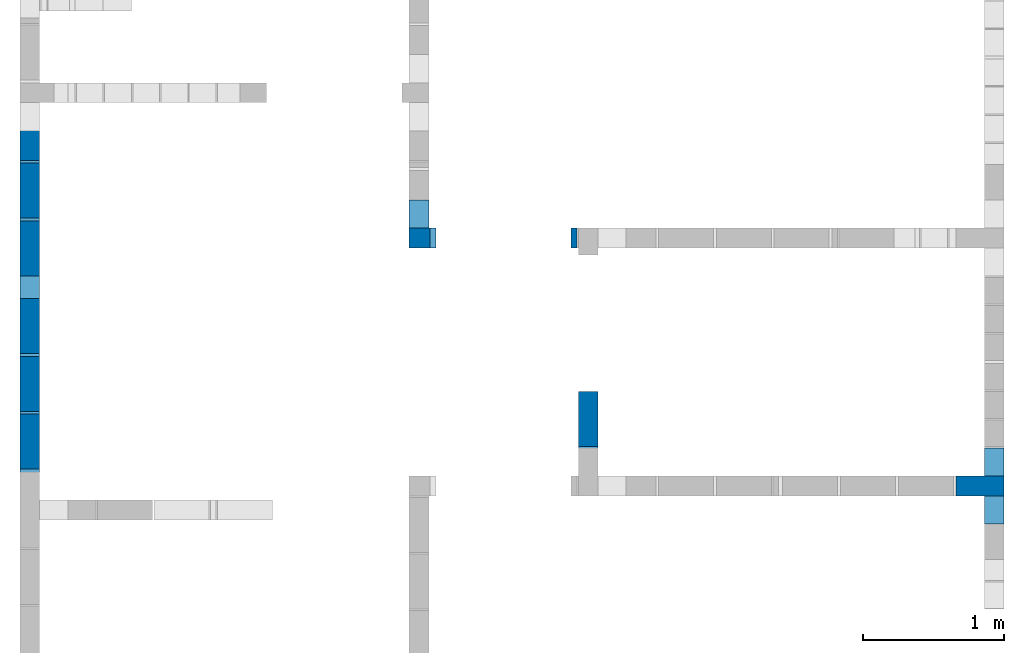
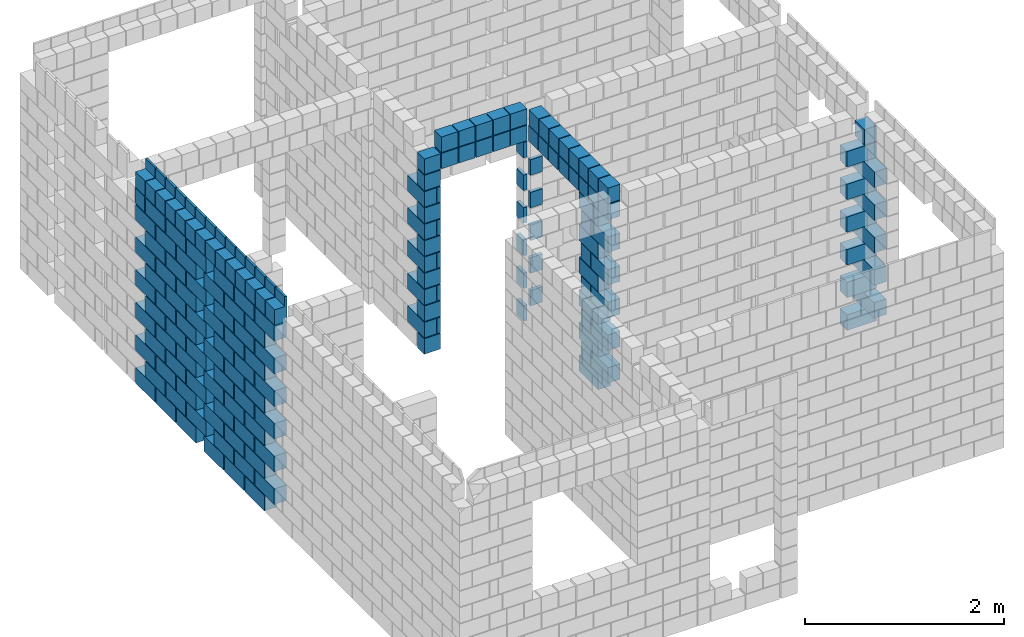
# One storey, part 7 of 12: 5 walls.
"""IFC4 building model written with IfcOpenShell, lengths in centimetres."""

from ifc_helpers import new_model, si_unit, derived_unit, frame, origin, origin_with_axes, origin_2d_with_axis, place, context, project, spatial, rectangle, extrude, element, save


model = new_model("IFC4")

# Units and contexts
model_context = context("Model", 3, precision=1e-05, world=origin_with_axes(), identifier="Body")
ifc_project = project(units=[si_unit("LENGTHUNIT", "METRE", prefix="CENTI"), si_unit("VOLUMEUNIT", "CUBIC_METRE"), si_unit("AREAUNIT", "SQUARE_METRE"), si_unit("POWERUNIT", "WATT"), si_unit("LUMINOUSFLUXUNIT", "LUMEN"), si_unit("ELECTRICCURRENTUNIT", "AMPERE"), si_unit("PRESSUREUNIT", "PASCAL", prefix="KILO"), si_unit("MASSUNIT", "GRAM", prefix="KILO"), si_unit("PLANEANGLEUNIT", "RADIAN"), derived_unit("VOLUMETRICFLOWRATEUNIT", [(si_unit("LENGTHUNIT", "METRE"), 3), (si_unit("TIMEUNIT", "SECOND"), -1)])], contexts=[model_context])

# Site, building, storey
site_placement = place(None, origin_with_axes())
site = spatial("IfcSite", under=ifc_project, at=site_placement)
building_placement = place(site_placement, origin())
building = spatial("IfcBuilding", under=site, at=building_placement)
storey_placement = place(building_placement, origin_with_axes())
storey = spatial("IfcBuildingStorey", under=building, at=storey_placement, Name="PISO", CompositionType="ELEMENT", Elevation=0.0)

# Walls
wall_1_placement = place(storey_placement, frame((286.5, 567.01, 239.0), z_axis=(0.0, 0.0, 1.0), x_axis=(1.0, 0.0, 0.0)))
element("IfcWall", 1, at=wall_1_placement, inside=storey, context=model_context, shape_type="SolidModel", body=[
    extrude(rectangle(XDim=19.0, YDim=14.0, at=origin_2d_with_axis()), frame((0.0, -10.0, -239.0), z_axis=(0.0, 0.0, 1.0), x_axis=(1.0, 0.0, 0.0)), (0.0, 0.0, 1.0), 19.0),
    extrude(rectangle(XDim=34.0, YDim=14.0, at=origin_2d_with_axis()), frame((-2.5, 0.0, -219.0), z_axis=(0.0, 0.0, 1.0), x_axis=(0.0, 1.0, 0.0)), (0.0, 0.0, 1.0), 19.0),
    extrude(rectangle(XDim=19.0, YDim=14.0, at=origin_2d_with_axis()), frame((0.0, -10.0, -199.0), z_axis=(0.0, 0.0, 1.0), x_axis=(1.0, 0.0, 0.0)), (0.0, 0.0, 1.0), 19.0),
    extrude(rectangle(XDim=34.0, YDim=14.0, at=origin_2d_with_axis()), frame((-2.5, 0.0, -179.0), z_axis=(0.0, 0.0, 1.0), x_axis=(0.0, 1.0, 0.0)), (0.0, 0.0, 1.0), 19.0),
    extrude(rectangle(XDim=19.0, YDim=14.0, at=origin_2d_with_axis()), frame((0.0, -10.0, -159.0), z_axis=(0.0, 0.0, 1.0), x_axis=(1.0, 0.0, 0.0)), (0.0, 0.0, 1.0), 19.0),
    extrude(rectangle(XDim=34.0, YDim=14.0, at=origin_2d_with_axis()), frame((-2.5, 0.0, -139.0), z_axis=(0.0, 0.0, 1.0), x_axis=(0.0, 1.0, 0.0)), (0.0, 0.0, 1.0), 19.0),
    extrude(rectangle(XDim=19.0, YDim=14.0, at=origin_2d_with_axis()), frame((0.0, -10.0, -119.0), z_axis=(0.0, 0.0, 1.0), x_axis=(1.0, 0.0, 0.0)), (0.0, 0.0, 1.0), 19.0),
    extrude(rectangle(XDim=34.0, YDim=14.0, at=origin_2d_with_axis()), frame((-2.5, 0.0, -99.0), z_axis=(0.0, 0.0, 1.0), x_axis=(0.0, 1.0, 0.0)), (0.0, 0.0, 1.0), 19.0),
    extrude(rectangle(XDim=19.0, YDim=14.0, at=origin_2d_with_axis()), frame((0.0, -10.0, -79.0), z_axis=(0.0, 0.0, 1.0), x_axis=(1.0, 0.0, 0.0)), (0.0, 0.0, 1.0), 19.0),
    extrude(rectangle(XDim=34.0, YDim=14.0, at=origin_2d_with_axis()), frame((-2.5, 0.0, -59.0), z_axis=(0.0, 0.0, 1.0), x_axis=(0.0, 1.0, 0.0)), (0.0, 0.0, 1.0), 19.0),
    extrude(rectangle(XDim=19.0, YDim=14.0, at=origin_2d_with_axis()), frame((0.0, -10.0, -39.0), z_axis=(0.0, 0.0, 1.0), x_axis=(1.0, 0.0, 0.0)), (0.0, 0.0, 1.0), 19.0),
    extrude(rectangle(XDim=19.0, YDim=14.0, at=origin_2d_with_axis()), frame((0.0, -10.0, -19.0), z_axis=(0.0, 0.0, 1.0), x_axis=(1.0, 0.0, 0.0)), (0.0, 0.0, 1.0), 19.0),
])
wall_2_placement = place(storey_placement, frame((682.01, 381.01, 239.0), z_axis=(0.0, 0.0, 1.0), x_axis=(1.0, 0.0, 0.0)))
element("IfcWall", 2, at=wall_2_placement, inside=storey, context=model_context, shape_type="SolidModel", body=[
    extrude(rectangle(XDim=34.0, YDim=14.0, at=origin_2d_with_axis()), frame((0.0, 0.0, -239.0), z_axis=(0.0, 0.0, 1.0), x_axis=(-1.0, 0.0, 0.0)), (0.0, 0.0, 1.0), 19.0),
    extrude(rectangle(XDim=54.0, YDim=14.0, at=origin_2d_with_axis()), frame((10.0, 0.0, -219.0), z_axis=(0.0, 0.0, 1.0), x_axis=(0.0, -1.0, 0.0)), (0.0, 0.0, 1.0), 19.0),
    extrude(rectangle(XDim=34.0, YDim=14.0, at=origin_2d_with_axis()), frame((0.0, 0.0, -199.0), z_axis=(0.0, 0.0, 1.0), x_axis=(-1.0, 0.0, 0.0)), (0.0, 0.0, 1.0), 19.0),
    extrude(rectangle(XDim=54.0, YDim=14.0, at=origin_2d_with_axis()), frame((10.0, 0.0, -179.0), z_axis=(0.0, 0.0, 1.0), x_axis=(0.0, -1.0, 0.0)), (0.0, 0.0, 1.0), 19.0),
    extrude(rectangle(XDim=34.0, YDim=14.0, at=origin_2d_with_axis()), frame((0.0, 0.0, -159.0), z_axis=(0.0, 0.0, 1.0), x_axis=(-1.0, 0.0, 0.0)), (0.0, 0.0, 1.0), 19.0),
    extrude(rectangle(XDim=54.0, YDim=14.0, at=origin_2d_with_axis()), frame((10.0, 0.0, -139.0), z_axis=(0.0, 0.0, 1.0), x_axis=(0.0, -1.0, 0.0)), (0.0, 0.0, 1.0), 19.0),
    extrude(rectangle(XDim=34.0, YDim=14.0, at=origin_2d_with_axis()), frame((0.0, 0.0, -119.0), z_axis=(0.0, 0.0, 1.0), x_axis=(-1.0, 0.0, 0.0)), (0.0, 0.0, 1.0), 19.0),
    extrude(rectangle(XDim=54.0, YDim=14.0, at=origin_2d_with_axis()), frame((10.0, 0.0, -99.0), z_axis=(0.0, 0.0, 1.0), x_axis=(0.0, -1.0, 0.0)), (0.0, 0.0, 1.0), 19.0),
    extrude(rectangle(XDim=34.0, YDim=14.0, at=origin_2d_with_axis()), frame((0.0, 0.0, -79.0), z_axis=(0.0, 0.0, 1.0), x_axis=(-1.0, 0.0, 0.0)), (0.0, 0.0, 1.0), 19.0),
    extrude(rectangle(XDim=54.0, YDim=14.0, at=origin_2d_with_axis()), frame((10.0, 0.0, -59.0), z_axis=(0.0, 0.0, 1.0), x_axis=(0.0, -1.0, 0.0)), (0.0, 0.0, 1.0), 19.0),
    extrude(rectangle(XDim=34.0, YDim=14.0, at=origin_2d_with_axis()), frame((0.0, 0.0, -39.0), z_axis=(0.0, 0.0, 1.0), x_axis=(-1.0, 0.0, 0.0)), (0.0, 0.0, 1.0), 19.0),
    extrude(rectangle(XDim=19.0, YDim=14.0, at=origin_2d_with_axis()), frame((10.0, 2.5, -19.0), z_axis=(0.0, 0.0, 1.0), x_axis=(0.0, 1.0, 0.0)), (0.0, 0.0, 1.0), 19.0),
])
wall_3_placement = place(storey_placement, frame((8.0, 512.01, 271.0), z_axis=(0.0, 0.0, 1.0), x_axis=(1.0, 0.0, 0.0)))
element("IfcWall", 3, at=wall_3_placement, inside=storey, Name="PAR-PISO-11", context=model_context, shape_type="SolidModel", body=[
    extrude(rectangle(XDim=39.0, YDim=14.0, at=origin_2d_with_axis()), frame((0.0, -99.5, -271.0), z_axis=(0.0, 0.0, 1.0), x_axis=(0.0, 1.0, 0.0)), (0.0, 0.0, 1.0), 19.0),
    extrude(rectangle(XDim=39.0, YDim=14.0, at=origin_2d_with_axis()), frame((0.0, -58.5, -271.0), z_axis=(0.0, 0.0, 1.0), x_axis=(0.0, 1.0, 0.0)), (0.0, 0.0, 1.0), 19.0),
    extrude(rectangle(XDim=39.0, YDim=14.0, at=origin_2d_with_axis()), frame((0.0, -17.5, -271.0), z_axis=(0.0, 0.0, 1.0), x_axis=(0.0, 1.0, 0.0)), (0.0, 0.0, 1.0), 19.0),
    extrude(rectangle(XDim=39.0, YDim=14.0, at=origin_2d_with_axis()), frame((0.0, 37.5, -271.0), z_axis=(0.0, 0.0, 1.0), x_axis=(0.0, 1.0, 0.0)), (0.0, 0.0, 1.0), 19.0),
    extrude(rectangle(XDim=39.0, YDim=14.0, at=origin_2d_with_axis()), frame((0.0, 78.5, -271.0), z_axis=(0.0, 0.0, 1.0), x_axis=(0.0, 1.0, 0.0)), (0.0, 0.0, 1.0), 19.0),
    extrude(rectangle(XDim=39.0, YDim=14.0, at=origin_2d_with_axis()), frame((0.0, 119.5, -271.0), z_axis=(0.0, 0.0, 1.0), x_axis=(0.0, 1.0, 0.0)), (0.0, 0.0, 1.0), 19.0),
    extrude(rectangle(XDim=39.0, YDim=14.0, at=origin_2d_with_axis()), frame((0.0, -119.5, -251.0), z_axis=(0.0, 0.0, 1.0), x_axis=(0.0, 1.0, 0.0)), (0.0, 0.0, 1.0), 19.0),
    extrude(rectangle(XDim=39.0, YDim=14.0, at=origin_2d_with_axis()), frame((0.0, -78.5, -251.0), z_axis=(0.0, 0.0, 1.0), x_axis=(0.0, 1.0, 0.0)), (0.0, 0.0, 1.0), 19.0),
    extrude(rectangle(XDim=39.0, YDim=14.0, at=origin_2d_with_axis()), frame((0.0, -37.5, -251.0), z_axis=(0.0, 0.0, 1.0), x_axis=(0.0, 1.0, 0.0)), (0.0, 0.0, 1.0), 19.0),
    extrude(rectangle(XDim=39.0, YDim=14.0, at=origin_2d_with_axis()), frame((0.0, 17.5, -251.0), z_axis=(0.0, 0.0, 1.0), x_axis=(0.0, 1.0, 0.0)), (0.0, 0.0, 1.0), 19.0),
    extrude(rectangle(XDim=39.0, YDim=14.0, at=origin_2d_with_axis()), frame((0.0, 58.5, -251.0), z_axis=(0.0, 0.0, 1.0), x_axis=(0.0, 1.0, 0.0)), (0.0, 0.0, 1.0), 19.0),
    extrude(rectangle(XDim=39.0, YDim=14.0, at=origin_2d_with_axis()), frame((0.0, 99.5, -251.0), z_axis=(0.0, 0.0, 1.0), x_axis=(0.0, 1.0, 0.0)), (0.0, 0.0, 1.0), 19.0),
    extrude(rectangle(XDim=39.0, YDim=14.0, at=origin_2d_with_axis()), frame((0.0, -99.5, -231.0), z_axis=(0.0, 0.0, 1.0), x_axis=(0.0, 1.0, 0.0)), (0.0, 0.0, 1.0), 19.0),
    extrude(rectangle(XDim=39.0, YDim=14.0, at=origin_2d_with_axis()), frame((0.0, -58.5, -231.0), z_axis=(0.0, 0.0, 1.0), x_axis=(0.0, 1.0, 0.0)), (0.0, 0.0, 1.0), 19.0),
    extrude(rectangle(XDim=39.0, YDim=14.0, at=origin_2d_with_axis()), frame((0.0, -17.5, -231.0), z_axis=(0.0, 0.0, 1.0), x_axis=(0.0, 1.0, 0.0)), (0.0, 0.0, 1.0), 19.0),
    extrude(rectangle(XDim=39.0, YDim=14.0, at=origin_2d_with_axis()), frame((0.0, 37.5, -231.0), z_axis=(0.0, 0.0, 1.0), x_axis=(0.0, 1.0, 0.0)), (0.0, 0.0, 1.0), 19.0),
    extrude(rectangle(XDim=39.0, YDim=14.0, at=origin_2d_with_axis()), frame((0.0, 78.5, -231.0), z_axis=(0.0, 0.0, 1.0), x_axis=(0.0, 1.0, 0.0)), (0.0, 0.0, 1.0), 19.0),
    extrude(rectangle(XDim=39.0, YDim=14.0, at=origin_2d_with_axis()), frame((0.0, 119.5, -231.0), z_axis=(0.0, 0.0, 1.0), x_axis=(0.0, 1.0, 0.0)), (0.0, 0.0, 1.0), 19.0),
    extrude(rectangle(XDim=39.0, YDim=14.0, at=origin_2d_with_axis()), frame((0.0, -119.5, -211.0), z_axis=(0.0, 0.0, 1.0), x_axis=(0.0, 1.0, 0.0)), (0.0, 0.0, 1.0), 19.0),
    extrude(rectangle(XDim=39.0, YDim=14.0, at=origin_2d_with_axis()), frame((0.0, -78.5, -211.0), z_axis=(0.0, 0.0, 1.0), x_axis=(0.0, 1.0, 0.0)), (0.0, 0.0, 1.0), 19.0),
    extrude(rectangle(XDim=39.0, YDim=14.0, at=origin_2d_with_axis()), frame((0.0, -37.5, -211.0), z_axis=(0.0, 0.0, 1.0), x_axis=(0.0, 1.0, 0.0)), (0.0, 0.0, 1.0), 19.0),
    extrude(rectangle(XDim=39.0, YDim=14.0, at=origin_2d_with_axis()), frame((0.0, 17.5, -211.0), z_axis=(0.0, 0.0, 1.0), x_axis=(0.0, 1.0, 0.0)), (0.0, 0.0, 1.0), 19.0),
    extrude(rectangle(XDim=39.0, YDim=14.0, at=origin_2d_with_axis()), frame((0.0, 58.5, -211.0), z_axis=(0.0, 0.0, 1.0), x_axis=(0.0, 1.0, 0.0)), (0.0, 0.0, 1.0), 19.0),
    extrude(rectangle(XDim=39.0, YDim=14.0, at=origin_2d_with_axis()), frame((0.0, 99.5, -211.0), z_axis=(0.0, 0.0, 1.0), x_axis=(0.0, 1.0, 0.0)), (0.0, 0.0, 1.0), 19.0),
    extrude(rectangle(XDim=39.0, YDim=14.0, at=origin_2d_with_axis()), frame((0.0, -99.5, -191.0), z_axis=(0.0, 0.0, 1.0), x_axis=(0.0, 1.0, 0.0)), (0.0, 0.0, 1.0), 19.0),
    extrude(rectangle(XDim=39.0, YDim=14.0, at=origin_2d_with_axis()), frame((0.0, -58.5, -191.0), z_axis=(0.0, 0.0, 1.0), x_axis=(0.0, 1.0, 0.0)), (0.0, 0.0, 1.0), 19.0),
    extrude(rectangle(XDim=39.0, YDim=14.0, at=origin_2d_with_axis()), frame((0.0, -17.5, -191.0), z_axis=(0.0, 0.0, 1.0), x_axis=(0.0, 1.0, 0.0)), (0.0, 0.0, 1.0), 19.0),
    extrude(rectangle(XDim=39.0, YDim=14.0, at=origin_2d_with_axis()), frame((0.0, 37.5, -191.0), z_axis=(0.0, 0.0, 1.0), x_axis=(0.0, 1.0, 0.0)), (0.0, 0.0, 1.0), 19.0),
    extrude(rectangle(XDim=39.0, YDim=14.0, at=origin_2d_with_axis()), frame((0.0, 78.5, -191.0), z_axis=(0.0, 0.0, 1.0), x_axis=(0.0, 1.0, 0.0)), (0.0, 0.0, 1.0), 19.0),
    extrude(rectangle(XDim=39.0, YDim=14.0, at=origin_2d_with_axis()), frame((0.0, 119.5, -191.0), z_axis=(0.0, 0.0, 1.0), x_axis=(0.0, 1.0, 0.0)), (0.0, 0.0, 1.0), 19.0),
    extrude(rectangle(XDim=39.0, YDim=14.0, at=origin_2d_with_axis()), frame((0.0, -119.5, -171.0), z_axis=(0.0, 0.0, 1.0), x_axis=(0.0, 1.0, 0.0)), (0.0, 0.0, 1.0), 19.0),
    extrude(rectangle(XDim=39.0, YDim=14.0, at=origin_2d_with_axis()), frame((0.0, -78.5, -171.0), z_axis=(0.0, 0.0, 1.0), x_axis=(0.0, 1.0, 0.0)), (0.0, 0.0, 1.0), 19.0),
    extrude(rectangle(XDim=39.0, YDim=14.0, at=origin_2d_with_axis()), frame((0.0, -37.5, -171.0), z_axis=(0.0, 0.0, 1.0), x_axis=(0.0, 1.0, 0.0)), (0.0, 0.0, 1.0), 19.0),
    extrude(rectangle(XDim=39.0, YDim=14.0, at=origin_2d_with_axis()), frame((0.0, 17.5, -171.0), z_axis=(0.0, 0.0, 1.0), x_axis=(0.0, 1.0, 0.0)), (0.0, 0.0, 1.0), 19.0),
    extrude(rectangle(XDim=39.0, YDim=14.0, at=origin_2d_with_axis()), frame((0.0, 58.5, -171.0), z_axis=(0.0, 0.0, 1.0), x_axis=(0.0, 1.0, 0.0)), (0.0, 0.0, 1.0), 19.0),
    extrude(rectangle(XDim=39.0, YDim=14.0, at=origin_2d_with_axis()), frame((0.0, 99.5, -171.0), z_axis=(0.0, 0.0, 1.0), x_axis=(0.0, 1.0, 0.0)), (0.0, 0.0, 1.0), 19.0),
    extrude(rectangle(XDim=39.0, YDim=14.0, at=origin_2d_with_axis()), frame((0.0, -99.5, -151.0), z_axis=(0.0, 0.0, 1.0), x_axis=(0.0, 1.0, 0.0)), (0.0, 0.0, 1.0), 19.0),
    extrude(rectangle(XDim=39.0, YDim=14.0, at=origin_2d_with_axis()), frame((0.0, -58.5, -151.0), z_axis=(0.0, 0.0, 1.0), x_axis=(0.0, 1.0, 0.0)), (0.0, 0.0, 1.0), 19.0),
    extrude(rectangle(XDim=39.0, YDim=14.0, at=origin_2d_with_axis()), frame((0.0, -17.5, -151.0), z_axis=(0.0, 0.0, 1.0), x_axis=(0.0, 1.0, 0.0)), (0.0, 0.0, 1.0), 19.0),
    extrude(rectangle(XDim=39.0, YDim=14.0, at=origin_2d_with_axis()), frame((0.0, 37.5, -151.0), z_axis=(0.0, 0.0, 1.0), x_axis=(0.0, 1.0, 0.0)), (0.0, 0.0, 1.0), 19.0),
    extrude(rectangle(XDim=39.0, YDim=14.0, at=origin_2d_with_axis()), frame((0.0, 78.5, -151.0), z_axis=(0.0, 0.0, 1.0), x_axis=(0.0, 1.0, 0.0)), (0.0, 0.0, 1.0), 19.0),
    extrude(rectangle(XDim=39.0, YDim=14.0, at=origin_2d_with_axis()), frame((0.0, 119.5, -151.0), z_axis=(0.0, 0.0, 1.0), x_axis=(0.0, 1.0, 0.0)), (0.0, 0.0, 1.0), 19.0),
    extrude(rectangle(XDim=39.0, YDim=14.0, at=origin_2d_with_axis()), frame((0.0, -119.5, -131.0), z_axis=(0.0, 0.0, 1.0), x_axis=(0.0, 1.0, 0.0)), (0.0, 0.0, 1.0), 19.0),
    extrude(rectangle(XDim=39.0, YDim=14.0, at=origin_2d_with_axis()), frame((0.0, -78.5, -131.0), z_axis=(0.0, 0.0, 1.0), x_axis=(0.0, 1.0, 0.0)), (0.0, 0.0, 1.0), 19.0),
    extrude(rectangle(XDim=39.0, YDim=14.0, at=origin_2d_with_axis()), frame((0.0, -37.5, -131.0), z_axis=(0.0, 0.0, 1.0), x_axis=(0.0, 1.0, 0.0)), (0.0, 0.0, 1.0), 19.0),
    extrude(rectangle(XDim=39.0, YDim=14.0, at=origin_2d_with_axis()), frame((0.0, 17.5, -131.0), z_axis=(0.0, 0.0, 1.0), x_axis=(0.0, 1.0, 0.0)), (0.0, 0.0, 1.0), 19.0),
    extrude(rectangle(XDim=39.0, YDim=14.0, at=origin_2d_with_axis()), frame((0.0, 58.5, -131.0), z_axis=(0.0, 0.0, 1.0), x_axis=(0.0, 1.0, 0.0)), (0.0, 0.0, 1.0), 19.0),
    extrude(rectangle(XDim=39.0, YDim=14.0, at=origin_2d_with_axis()), frame((0.0, 99.5, -131.0), z_axis=(0.0, 0.0, 1.0), x_axis=(0.0, 1.0, 0.0)), (0.0, 0.0, 1.0), 19.0),
    extrude(rectangle(XDim=39.0, YDim=14.0, at=origin_2d_with_axis()), frame((0.0, -99.5, -111.0), z_axis=(0.0, 0.0, 1.0), x_axis=(0.0, 1.0, 0.0)), (0.0, 0.0, 1.0), 19.0),
    extrude(rectangle(XDim=39.0, YDim=14.0, at=origin_2d_with_axis()), frame((0.0, -58.5, -111.0), z_axis=(0.0, 0.0, 1.0), x_axis=(0.0, 1.0, 0.0)), (0.0, 0.0, 1.0), 19.0),
    extrude(rectangle(XDim=39.0, YDim=14.0, at=origin_2d_with_axis()), frame((0.0, -17.5, -111.0), z_axis=(0.0, 0.0, 1.0), x_axis=(0.0, 1.0, 0.0)), (0.0, 0.0, 1.0), 19.0),
    extrude(rectangle(XDim=39.0, YDim=14.0, at=origin_2d_with_axis()), frame((0.0, 37.5, -111.0), z_axis=(0.0, 0.0, 1.0), x_axis=(0.0, 1.0, 0.0)), (0.0, 0.0, 1.0), 19.0),
    extrude(rectangle(XDim=39.0, YDim=14.0, at=origin_2d_with_axis()), frame((0.0, 78.5, -111.0), z_axis=(0.0, 0.0, 1.0), x_axis=(0.0, 1.0, 0.0)), (0.0, 0.0, 1.0), 19.0),
    extrude(rectangle(XDim=39.0, YDim=14.0, at=origin_2d_with_axis()), frame((0.0, 119.5, -111.0), z_axis=(0.0, 0.0, 1.0), x_axis=(0.0, 1.0, 0.0)), (0.0, 0.0, 1.0), 19.0),
    extrude(rectangle(XDim=39.0, YDim=14.0, at=origin_2d_with_axis()), frame((0.0, -119.5, -91.0), z_axis=(0.0, 0.0, 1.0), x_axis=(0.0, 1.0, 0.0)), (0.0, 0.0, 1.0), 19.0),
    extrude(rectangle(XDim=39.0, YDim=14.0, at=origin_2d_with_axis()), frame((0.0, -78.5, -91.0), z_axis=(0.0, 0.0, 1.0), x_axis=(0.0, 1.0, 0.0)), (0.0, 0.0, 1.0), 19.0),
    extrude(rectangle(XDim=39.0, YDim=14.0, at=origin_2d_with_axis()), frame((0.0, -37.5, -91.0), z_axis=(0.0, 0.0, 1.0), x_axis=(0.0, 1.0, 0.0)), (0.0, 0.0, 1.0), 19.0),
    extrude(rectangle(XDim=39.0, YDim=14.0, at=origin_2d_with_axis()), frame((0.0, 17.5, -91.0), z_axis=(0.0, 0.0, 1.0), x_axis=(0.0, 1.0, 0.0)), (0.0, 0.0, 1.0), 19.0),
    extrude(rectangle(XDim=39.0, YDim=14.0, at=origin_2d_with_axis()), frame((0.0, 58.5, -91.0), z_axis=(0.0, 0.0, 1.0), x_axis=(0.0, 1.0, 0.0)), (0.0, 0.0, 1.0), 19.0),
    extrude(rectangle(XDim=39.0, YDim=14.0, at=origin_2d_with_axis()), frame((0.0, 99.5, -91.0), z_axis=(0.0, 0.0, 1.0), x_axis=(0.0, 1.0, 0.0)), (0.0, 0.0, 1.0), 19.0),
    extrude(rectangle(XDim=39.0, YDim=14.0, at=origin_2d_with_axis()), frame((0.0, -99.5, -71.0), z_axis=(0.0, 0.0, 1.0), x_axis=(0.0, 1.0, 0.0)), (0.0, 0.0, 1.0), 19.0),
    extrude(rectangle(XDim=39.0, YDim=14.0, at=origin_2d_with_axis()), frame((0.0, -58.5, -71.0), z_axis=(0.0, 0.0, 1.0), x_axis=(0.0, 1.0, 0.0)), (0.0, 0.0, 1.0), 19.0),
    extrude(rectangle(XDim=39.0, YDim=14.0, at=origin_2d_with_axis()), frame((0.0, -17.5, -71.0), z_axis=(0.0, 0.0, 1.0), x_axis=(0.0, 1.0, 0.0)), (0.0, 0.0, 1.0), 19.0),
    extrude(rectangle(XDim=39.0, YDim=14.0, at=origin_2d_with_axis()), frame((0.0, 37.5, -71.0), z_axis=(0.0, 0.0, 1.0), x_axis=(0.0, 1.0, 0.0)), (0.0, 0.0, 1.0), 19.0),
    extrude(rectangle(XDim=39.0, YDim=14.0, at=origin_2d_with_axis()), frame((0.0, 78.5, -71.0), z_axis=(0.0, 0.0, 1.0), x_axis=(0.0, 1.0, 0.0)), (0.0, 0.0, 1.0), 19.0),
    extrude(rectangle(XDim=39.0, YDim=14.0, at=origin_2d_with_axis()), frame((0.0, 119.5, -71.0), z_axis=(0.0, 0.0, 1.0), x_axis=(0.0, 1.0, 0.0)), (0.0, 0.0, 1.0), 19.0),
    extrude(rectangle(XDim=39.0, YDim=14.0, at=origin_2d_with_axis()), frame((0.0, -119.5, -51.0), z_axis=(0.0, 0.0, 1.0), x_axis=(0.0, 1.0, 0.0)), (0.0, 0.0, 1.0), 19.0),
    extrude(rectangle(XDim=39.0, YDim=14.0, at=origin_2d_with_axis()), frame((0.0, -78.5, -51.0), z_axis=(0.0, 0.0, 1.0), x_axis=(0.0, 1.0, 0.0)), (0.0, 0.0, 1.0), 19.0),
    extrude(rectangle(XDim=39.0, YDim=14.0, at=origin_2d_with_axis()), frame((0.0, -37.5, -51.0), z_axis=(0.0, 0.0, 1.0), x_axis=(0.0, 1.0, 0.0)), (0.0, 0.0, 1.0), 19.0),
    extrude(rectangle(XDim=39.0, YDim=14.0, at=origin_2d_with_axis()), frame((0.0, 17.5, -51.0), z_axis=(0.0, 0.0, 1.0), x_axis=(0.0, 1.0, 0.0)), (0.0, 0.0, 1.0), 19.0),
    extrude(rectangle(XDim=39.0, YDim=14.0, at=origin_2d_with_axis()), frame((0.0, 58.5, -51.0), z_axis=(0.0, 0.0, 1.0), x_axis=(0.0, 1.0, 0.0)), (0.0, 0.0, 1.0), 19.0),
    extrude(rectangle(XDim=39.0, YDim=14.0, at=origin_2d_with_axis()), frame((0.0, 99.5, -51.0), z_axis=(0.0, 0.0, 1.0), x_axis=(0.0, 1.0, 0.0)), (0.0, 0.0, 1.0), 19.0),
    extrude(rectangle(XDim=19.0, YDim=14.0, at=origin_2d_with_axis()), frame((0.0, 130.5, -51.0), z_axis=(0.0, 0.0, 1.0), x_axis=(0.0, 1.0, 0.0)), (0.0, 0.0, 1.0), 19.0),
    extrude(rectangle(XDim=19.0, YDim=2.5, at=origin_2d_with_axis()), frame((5.75, -130.5, -12.0), z_axis=(0.0, 0.0, 1.0), x_axis=(0.0, 1.0, 0.0)), (0.0, 0.0, 1.0), 12.0),
    extrude(rectangle(XDim=19.0, YDim=14.0, at=origin_2d_with_axis()), frame((0.0, -130.5, -31.0), z_axis=(0.0, 0.0, 1.0), x_axis=(0.0, 1.0, 0.0)), (0.0, 0.0, 1.0), 19.0),
    extrude(rectangle(XDim=19.0, YDim=2.5, at=origin_2d_with_axis()), frame((5.75, -110.5, -12.0), z_axis=(0.0, 0.0, 1.0), x_axis=(0.0, 1.0, 0.0)), (0.0, 0.0, 1.0), 12.0),
    extrude(rectangle(XDim=19.0, YDim=14.0, at=origin_2d_with_axis()), frame((0.0, -110.5, -31.0), z_axis=(0.0, 0.0, 1.0), x_axis=(0.0, 1.0, 0.0)), (0.0, 0.0, 1.0), 19.0),
    extrude(rectangle(XDim=19.0, YDim=2.5, at=origin_2d_with_axis()), frame((5.75, -90.5, -12.0), z_axis=(0.0, 0.0, 1.0), x_axis=(0.0, 1.0, 0.0)), (0.0, 0.0, 1.0), 12.0),
    extrude(rectangle(XDim=19.0, YDim=14.0, at=origin_2d_with_axis()), frame((0.0, -90.5, -31.0), z_axis=(0.0, 0.0, 1.0), x_axis=(0.0, 1.0, 0.0)), (0.0, 0.0, 1.0), 19.0),
    extrude(rectangle(XDim=19.0, YDim=2.5, at=origin_2d_with_axis()), frame((5.75, -70.5, -12.0), z_axis=(0.0, 0.0, 1.0), x_axis=(0.0, 1.0, 0.0)), (0.0, 0.0, 1.0), 12.0),
    extrude(rectangle(XDim=19.0, YDim=14.0, at=origin_2d_with_axis()), frame((0.0, -70.5, -31.0), z_axis=(0.0, 0.0, 1.0), x_axis=(0.0, 1.0, 0.0)), (0.0, 0.0, 1.0), 19.0),
    extrude(rectangle(XDim=19.0, YDim=2.5, at=origin_2d_with_axis()), frame((5.75, -50.5, -12.0), z_axis=(0.0, 0.0, 1.0), x_axis=(0.0, 1.0, 0.0)), (0.0, 0.0, 1.0), 12.0),
    extrude(rectangle(XDim=19.0, YDim=14.0, at=origin_2d_with_axis()), frame((0.0, -50.5, -31.0), z_axis=(0.0, 0.0, 1.0), x_axis=(0.0, 1.0, 0.0)), (0.0, 0.0, 1.0), 19.0),
    extrude(rectangle(XDim=19.0, YDim=2.5, at=origin_2d_with_axis()), frame((5.75, -30.5, -12.0), z_axis=(0.0, 0.0, 1.0), x_axis=(0.0, 1.0, 0.0)), (0.0, 0.0, 1.0), 12.0),
    extrude(rectangle(XDim=19.0, YDim=14.0, at=origin_2d_with_axis()), frame((0.0, -30.5, -31.0), z_axis=(0.0, 0.0, 1.0), x_axis=(0.0, 1.0, 0.0)), (0.0, 0.0, 1.0), 19.0),
    extrude(rectangle(XDim=19.0, YDim=2.5, at=origin_2d_with_axis()), frame((5.75, -10.5, -12.0), z_axis=(0.0, 0.0, 1.0), x_axis=(0.0, 1.0, 0.0)), (0.0, 0.0, 1.0), 12.0),
    extrude(rectangle(XDim=19.0, YDim=14.0, at=origin_2d_with_axis()), frame((0.0, -10.5, -31.0), z_axis=(0.0, 0.0, 1.0), x_axis=(0.0, 1.0, 0.0)), (0.0, 0.0, 1.0), 19.0),
    extrude(rectangle(XDim=19.0, YDim=2.5, at=origin_2d_with_axis()), frame((5.75, 9.5, -12.0), z_axis=(0.0, 0.0, 1.0), x_axis=(0.0, 1.0, 0.0)), (0.0, 0.0, 1.0), 12.0),
    extrude(rectangle(XDim=19.0, YDim=14.0, at=origin_2d_with_axis()), frame((0.0, 9.5, -31.0), z_axis=(0.0, 0.0, 1.0), x_axis=(0.0, 1.0, 0.0)), (0.0, 0.0, 1.0), 19.0),
    extrude(rectangle(XDim=19.0, YDim=2.5, at=origin_2d_with_axis()), frame((5.75, 29.5, -12.0), z_axis=(0.0, 0.0, 1.0), x_axis=(0.0, 1.0, 0.0)), (0.0, 0.0, 1.0), 12.0),
    extrude(rectangle(XDim=19.0, YDim=14.0, at=origin_2d_with_axis()), frame((0.0, 29.5, -31.0), z_axis=(0.0, 0.0, 1.0), x_axis=(0.0, 1.0, 0.0)), (0.0, 0.0, 1.0), 19.0),
    extrude(rectangle(XDim=19.0, YDim=2.5, at=origin_2d_with_axis()), frame((5.75, 49.5, -12.0), z_axis=(0.0, 0.0, 1.0), x_axis=(0.0, 1.0, 0.0)), (0.0, 0.0, 1.0), 12.0),
    extrude(rectangle(XDim=19.0, YDim=14.0, at=origin_2d_with_axis()), frame((0.0, 49.5, -31.0), z_axis=(0.0, 0.0, 1.0), x_axis=(0.0, 1.0, 0.0)), (0.0, 0.0, 1.0), 19.0),
    extrude(rectangle(XDim=19.0, YDim=2.5, at=origin_2d_with_axis()), frame((5.75, 69.5, -12.0), z_axis=(0.0, 0.0, 1.0), x_axis=(0.0, 1.0, 0.0)), (0.0, 0.0, 1.0), 12.0),
    extrude(rectangle(XDim=19.0, YDim=14.0, at=origin_2d_with_axis()), frame((0.0, 69.5, -31.0), z_axis=(0.0, 0.0, 1.0), x_axis=(0.0, 1.0, 0.0)), (0.0, 0.0, 1.0), 19.0),
    extrude(rectangle(XDim=19.0, YDim=2.5, at=origin_2d_with_axis()), frame((5.75, 89.5, -12.0), z_axis=(0.0, 0.0, 1.0), x_axis=(0.0, 1.0, 0.0)), (0.0, 0.0, 1.0), 12.0),
    extrude(rectangle(XDim=19.0, YDim=14.0, at=origin_2d_with_axis()), frame((0.0, 89.5, -31.0), z_axis=(0.0, 0.0, 1.0), x_axis=(0.0, 1.0, 0.0)), (0.0, 0.0, 1.0), 19.0),
    extrude(rectangle(XDim=19.0, YDim=2.5, at=origin_2d_with_axis()), frame((5.75, 109.5, -12.0), z_axis=(0.0, 0.0, 1.0), x_axis=(0.0, 1.0, 0.0)), (0.0, 0.0, 1.0), 12.0),
    extrude(rectangle(XDim=19.0, YDim=14.0, at=origin_2d_with_axis()), frame((0.0, 109.5, -31.0), z_axis=(0.0, 0.0, 1.0), x_axis=(0.0, 1.0, 0.0)), (0.0, 0.0, 1.0), 19.0),
    extrude(rectangle(XDim=19.0, YDim=2.5, at=origin_2d_with_axis()), frame((5.75, 129.5, -12.0), z_axis=(0.0, 0.0, 1.0), x_axis=(0.0, 1.0, 0.0)), (0.0, 0.0, 1.0), 12.0),
    extrude(rectangle(XDim=19.0, YDim=14.0, at=origin_2d_with_axis()), frame((0.0, 129.5, -31.0), z_axis=(0.0, 0.0, 1.0), x_axis=(0.0, 1.0, 0.0)), (0.0, 0.0, 1.0), 19.0),
])
wall_4_placement = place(storey_placement, frame((404.01, 469.01, 259.0), z_axis=(0.0, 0.0, 1.0), x_axis=(1.0, 0.0, 0.0)))
element("IfcWall", 4, at=wall_4_placement, inside=storey, Name="PAR-PISO-14", context=model_context, shape_type="SolidModel", body=[
    extrude(rectangle(XDim=39.0, YDim=14.0, at=origin_2d_with_axis()), frame((0.0, -40.5, -259.0), z_axis=(0.0, 0.0, 1.0), x_axis=(0.0, 1.0, 0.0)), (0.0, 0.0, 1.0), 19.0),
    extrude(rectangle(XDim=4.0, YDim=14.0, at=origin_2d_with_axis()), frame((0.0, 78.0, -239.0), z_axis=(0.0, 0.0, 1.0), x_axis=(0.0, 1.0, 0.0)), (0.0, 0.0, 1.0), 19.0),
    extrude(rectangle(XDim=34.0, YDim=14.0, at=origin_2d_with_axis()), frame((0.0, -62.8, -239.0), z_axis=(0.0, 0.0, 1.0), x_axis=(0.0, 1.0, 0.0)), (0.0, 0.0, 1.0), 19.0),
    extrude(rectangle(XDim=19.0, YDim=14.0, at=origin_2d_with_axis()), frame((0.0, -35.3, -239.0), z_axis=(0.0, 0.0, 1.0), x_axis=(0.0, 1.0, 0.0)), (0.0, 0.0, 1.0), 19.0),
    extrude(rectangle(XDim=39.0, YDim=14.0, at=origin_2d_with_axis()), frame((0.0, -40.5, -219.0), z_axis=(0.0, 0.0, 1.0), x_axis=(0.0, 1.0, 0.0)), (0.0, 0.0, 1.0), 19.0),
    extrude(rectangle(XDim=4.0, YDim=14.0, at=origin_2d_with_axis()), frame((0.0, 78.0, -199.0), z_axis=(0.0, 0.0, 1.0), x_axis=(0.0, 1.0, 0.0)), (0.0, 0.0, 1.0), 19.0),
    extrude(rectangle(XDim=34.0, YDim=14.0, at=origin_2d_with_axis()), frame((0.0, -62.8, -199.0), z_axis=(0.0, 0.0, 1.0), x_axis=(0.0, 1.0, 0.0)), (0.0, 0.0, 1.0), 19.0),
    extrude(rectangle(XDim=19.0, YDim=14.0, at=origin_2d_with_axis()), frame((0.0, -35.3, -199.0), z_axis=(0.0, 0.0, 1.0), x_axis=(0.0, 1.0, 0.0)), (0.0, 0.0, 1.0), 19.0),
    extrude(rectangle(XDim=39.0, YDim=14.0, at=origin_2d_with_axis()), frame((0.0, -40.5, -179.0), z_axis=(0.0, 0.0, 1.0), x_axis=(0.0, 1.0, 0.0)), (0.0, 0.0, 1.0), 19.0),
    extrude(rectangle(XDim=4.0, YDim=14.0, at=origin_2d_with_axis()), frame((0.0, 78.0, -159.0), z_axis=(0.0, 0.0, 1.0), x_axis=(0.0, 1.0, 0.0)), (0.0, 0.0, 1.0), 19.0),
    extrude(rectangle(XDim=34.0, YDim=14.0, at=origin_2d_with_axis()), frame((0.0, -62.8, -159.0), z_axis=(0.0, 0.0, 1.0), x_axis=(0.0, 1.0, 0.0)), (0.0, 0.0, 1.0), 19.0),
    extrude(rectangle(XDim=19.0, YDim=14.0, at=origin_2d_with_axis()), frame((0.0, -35.3, -159.0), z_axis=(0.0, 0.0, 1.0), x_axis=(0.0, 1.0, 0.0)), (0.0, 0.0, 1.0), 19.0),
    extrude(rectangle(XDim=39.0, YDim=14.0, at=origin_2d_with_axis()), frame((0.0, -40.5, -139.0), z_axis=(0.0, 0.0, 1.0), x_axis=(0.0, 1.0, 0.0)), (0.0, 0.0, 1.0), 19.0),
    extrude(rectangle(XDim=4.0, YDim=14.0, at=origin_2d_with_axis()), frame((0.0, 78.0, -119.0), z_axis=(0.0, 0.0, 1.0), x_axis=(0.0, 1.0, 0.0)), (0.0, 0.0, 1.0), 19.0),
    extrude(rectangle(XDim=34.0, YDim=14.0, at=origin_2d_with_axis()), frame((0.0, -62.8, -119.0), z_axis=(0.0, 0.0, 1.0), x_axis=(0.0, 1.0, 0.0)), (0.0, 0.0, 1.0), 19.0),
    extrude(rectangle(XDim=19.0, YDim=14.0, at=origin_2d_with_axis()), frame((0.0, -35.3, -119.0), z_axis=(0.0, 0.0, 1.0), x_axis=(0.0, 1.0, 0.0)), (0.0, 0.0, 1.0), 19.0),
    extrude(rectangle(XDim=39.0, YDim=14.0, at=origin_2d_with_axis()), frame((0.0, -40.5, -99.0), z_axis=(0.0, 0.0, 1.0), x_axis=(0.0, 1.0, 0.0)), (0.0, 0.0, 1.0), 19.0),
    extrude(rectangle(XDim=4.0, YDim=14.0, at=origin_2d_with_axis()), frame((0.0, 78.0, -79.0), z_axis=(0.0, 0.0, 1.0), x_axis=(0.0, 1.0, 0.0)), (0.0, 0.0, 1.0), 19.0),
    extrude(rectangle(XDim=34.0, YDim=14.0, at=origin_2d_with_axis()), frame((0.0, -62.8, -79.0), z_axis=(0.0, 0.0, 1.0), x_axis=(0.0, 1.0, 0.0)), (0.0, 0.0, 1.0), 19.0),
    extrude(rectangle(XDim=19.0, YDim=14.0, at=origin_2d_with_axis()), frame((0.0, -35.3, -79.0), z_axis=(0.0, 0.0, 1.0), x_axis=(0.0, 1.0, 0.0)), (0.0, 0.0, 1.0), 19.0),
    extrude(rectangle(XDim=39.0, YDim=14.0, at=origin_2d_with_axis()), frame((0.0, -40.5, -59.0), z_axis=(0.0, 0.0, 1.0), x_axis=(0.0, 1.0, 0.0)), (0.0, 0.0, 1.0), 19.0),
    extrude(rectangle(XDim=19.0, YDim=14.0, at=origin_2d_with_axis()), frame((0.0, -70.5, -39.0), z_axis=(0.0, 0.0, 1.0), x_axis=(0.0, 1.0, 0.0)), (0.0, 0.0, 1.0), 19.0),
    extrude(rectangle(XDim=19.0, YDim=14.0, at=origin_2d_with_axis()), frame((0.0, -50.5, -39.0), z_axis=(0.0, 0.0, 1.0), x_axis=(0.0, 1.0, 0.0)), (0.0, 0.0, 1.0), 19.0),
    extrude(rectangle(XDim=19.0, YDim=14.0, at=origin_2d_with_axis()), frame((0.0, -30.5, -39.0), z_axis=(0.0, 0.0, 1.0), x_axis=(0.0, 1.0, 0.0)), (0.0, 0.0, 1.0), 19.0),
    extrude(rectangle(XDim=19.0, YDim=14.0, at=origin_2d_with_axis()), frame((0.0, -10.5, -39.0), z_axis=(0.0, 0.0, 1.0), x_axis=(0.0, 1.0, 0.0)), (0.0, 0.0, 1.0), 19.0),
    extrude(rectangle(XDim=19.0, YDim=14.0, at=origin_2d_with_axis()), frame((0.0, 9.5, -39.0), z_axis=(0.0, 0.0, 1.0), x_axis=(0.0, 1.0, 0.0)), (0.0, 0.0, 1.0), 19.0),
    extrude(rectangle(XDim=19.0, YDim=14.0, at=origin_2d_with_axis()), frame((0.0, 30.5, -39.0), z_axis=(0.0, 0.0, 1.0), x_axis=(0.0, 1.0, 0.0)), (0.0, 0.0, 1.0), 19.0),
    extrude(rectangle(XDim=19.0, YDim=14.0, at=origin_2d_with_axis()), frame((0.0, 50.5, -39.0), z_axis=(0.0, 0.0, 1.0), x_axis=(0.0, 1.0, 0.0)), (0.0, 0.0, 1.0), 19.0),
    extrude(rectangle(XDim=19.0, YDim=14.0, at=origin_2d_with_axis()), frame((0.0, 70.5, -39.0), z_axis=(0.0, 0.0, 1.0), x_axis=(0.0, 1.0, 0.0)), (0.0, 0.0, 1.0), 19.0),
    extrude(rectangle(XDim=19.0, YDim=14.0, at=origin_2d_with_axis()), frame((0.0, -70.5, -19.0), z_axis=(0.0, 0.0, 1.0), x_axis=(0.0, 1.0, 0.0)), (0.0, 0.0, 1.0), 19.0),
    extrude(rectangle(XDim=19.0, YDim=14.0, at=origin_2d_with_axis()), frame((0.0, -50.5, -19.0), z_axis=(0.0, 0.0, 1.0), x_axis=(0.0, 1.0, 0.0)), (0.0, 0.0, 1.0), 19.0),
    extrude(rectangle(XDim=19.0, YDim=14.0, at=origin_2d_with_axis()), frame((0.0, -30.5, -19.0), z_axis=(0.0, 0.0, 1.0), x_axis=(0.0, 1.0, 0.0)), (0.0, 0.0, 1.0), 19.0),
    extrude(rectangle(XDim=19.0, YDim=14.0, at=origin_2d_with_axis()), frame((0.0, -10.5, -19.0), z_axis=(0.0, 0.0, 1.0), x_axis=(0.0, 1.0, 0.0)), (0.0, 0.0, 1.0), 19.0),
    extrude(rectangle(XDim=19.0, YDim=14.0, at=origin_2d_with_axis()), frame((0.0, 9.5, -19.0), z_axis=(0.0, 0.0, 1.0), x_axis=(0.0, 1.0, 0.0)), (0.0, 0.0, 1.0), 19.0),
    extrude(rectangle(XDim=19.0, YDim=14.0, at=origin_2d_with_axis()), frame((0.0, 29.5, -19.0), z_axis=(0.0, 0.0, 1.0), x_axis=(0.0, 1.0, 0.0)), (0.0, 0.0, 1.0), 19.0),
    extrude(rectangle(XDim=19.0, YDim=14.0, at=origin_2d_with_axis()), frame((0.0, 49.5, -19.0), z_axis=(0.0, 0.0, 1.0), x_axis=(0.0, 1.0, 0.0)), (0.0, 0.0, 1.0), 19.0),
    extrude(rectangle(XDim=19.0, YDim=14.0, at=origin_2d_with_axis()), frame((0.0, 69.5, -19.0), z_axis=(0.0, 0.0, 1.0), x_axis=(0.0, 1.0, 0.0)), (0.0, 0.0, 1.0), 19.0),
])
wall_5_placement = place(storey_placement, frame((344.005, 557.01, 259.0), z_axis=(0.0, 0.0, 1.0), x_axis=(1.0, 0.0, 0.0)))
element("IfcWall", 5, at=wall_5_placement, inside=storey, Name="PAR-PISO-5", context=model_context, shape_type="SolidModel", body=[
    extrude(rectangle(XDim=4.0, YDim=14.0, at=origin_2d_with_axis()), frame((50.005, 0.0, -259.0), z_axis=(0.0, 0.0, 1.0), x_axis=(-1.0, 0.0, 0.0)), (0.0, 0.0, 1.0), 19.0),
    extrude(rectangle(XDim=4.0, YDim=14.0, at=origin_2d_with_axis()), frame((-50.005, 0.0, -239.0), z_axis=(0.0, 0.0, 1.0), x_axis=(-1.0, 0.0, 0.0)), (0.0, 0.0, 1.0), 19.0),
    extrude(rectangle(XDim=4.0, YDim=14.0, at=origin_2d_with_axis()), frame((50.005, 0.0, -219.0), z_axis=(0.0, 0.0, 1.0), x_axis=(-1.0, 0.0, 0.0)), (0.0, 0.0, 1.0), 19.0),
    extrude(rectangle(XDim=4.0, YDim=14.0, at=origin_2d_with_axis()), frame((-50.005, 0.0, -199.0), z_axis=(0.0, 0.0, 1.0), x_axis=(-1.0, 0.0, 0.0)), (0.0, 0.0, 1.0), 19.0),
    extrude(rectangle(XDim=4.0, YDim=14.0, at=origin_2d_with_axis()), frame((50.005, 0.0, -179.0), z_axis=(0.0, 0.0, 1.0), x_axis=(-1.0, 0.0, 0.0)), (0.0, 0.0, 1.0), 19.0),
    extrude(rectangle(XDim=4.0, YDim=14.0, at=origin_2d_with_axis()), frame((-50.005, 0.0, -159.0), z_axis=(0.0, 0.0, 1.0), x_axis=(-1.0, 0.0, 0.0)), (0.0, 0.0, 1.0), 19.0),
    extrude(rectangle(XDim=4.0, YDim=14.0, at=origin_2d_with_axis()), frame((50.005, 0.0, -139.0), z_axis=(0.0, 0.0, 1.0), x_axis=(-1.0, 0.0, 0.0)), (0.0, 0.0, 1.0), 19.0),
    extrude(rectangle(XDim=4.0, YDim=14.0, at=origin_2d_with_axis()), frame((-50.005, 0.0, -119.0), z_axis=(0.0, 0.0, 1.0), x_axis=(-1.0, 0.0, 0.0)), (0.0, 0.0, 1.0), 19.0),
    extrude(rectangle(XDim=4.0, YDim=14.0, at=origin_2d_with_axis()), frame((50.005, 0.0, -99.0), z_axis=(0.0, 0.0, 1.0), x_axis=(-1.0, 0.0, 0.0)), (0.0, 0.0, 1.0), 19.0),
    extrude(rectangle(XDim=4.0, YDim=14.0, at=origin_2d_with_axis()), frame((-50.005, 0.0, -79.0), z_axis=(0.0, 0.0, 1.0), x_axis=(-1.0, 0.0, 0.0)), (0.0, 0.0, 1.0), 19.0),
    extrude(rectangle(XDim=4.0, YDim=14.0, at=origin_2d_with_axis()), frame((50.005, 0.0, -59.0), z_axis=(0.0, 0.0, 1.0), x_axis=(-1.0, 0.0, 0.0)), (0.0, 0.0, 1.0), 19.0),
    extrude(rectangle(XDim=19.0, YDim=14.0, at=origin_2d_with_axis()), frame((42.505, 0.0, -39.0), z_axis=(0.0, 0.0, 1.0), x_axis=(-1.0, 0.0, 0.0)), (0.0, 0.0, 1.0), 19.0),
    extrude(rectangle(XDim=19.0, YDim=14.0, at=origin_2d_with_axis()), frame((22.505, 0.0, -39.0), z_axis=(0.0, 0.0, 1.0), x_axis=(-1.0, 0.0, 0.0)), (0.0, 0.0, 1.0), 19.0),
    extrude(rectangle(XDim=19.0, YDim=14.0, at=origin_2d_with_axis()), frame((2.505, 0.0, -39.0), z_axis=(0.0, 0.0, 1.0), x_axis=(-1.0, 0.0, 0.0)), (0.0, 0.0, 1.0), 19.0),
    extrude(rectangle(XDim=19.0, YDim=14.0, at=origin_2d_with_axis()), frame((-17.495, 0.0, -39.0), z_axis=(0.0, 0.0, 1.0), x_axis=(-1.0, 0.0, 0.0)), (0.0, 0.0, 1.0), 19.0),
    extrude(rectangle(XDim=19.0, YDim=14.0, at=origin_2d_with_axis()), frame((-37.495, 0.0, -39.0), z_axis=(0.0, 0.0, 1.0), x_axis=(-1.0, 0.0, 0.0)), (0.0, 0.0, 1.0), 19.0),
    extrude(rectangle(XDim=19.0, YDim=14.0, at=origin_2d_with_axis()), frame((42.505, 0.0, -19.0), z_axis=(0.0, 0.0, 1.0), x_axis=(-1.0, 0.0, 0.0)), (0.0, 0.0, 1.0), 19.0),
    extrude(rectangle(XDim=19.0, YDim=14.0, at=origin_2d_with_axis()), frame((22.505, 0.0, -19.0), z_axis=(0.0, 0.0, 1.0), x_axis=(-1.0, 0.0, 0.0)), (0.0, 0.0, 1.0), 19.0),
    extrude(rectangle(XDim=19.0, YDim=14.0, at=origin_2d_with_axis()), frame((2.505, 0.0, -19.0), z_axis=(0.0, 0.0, 1.0), x_axis=(-1.0, 0.0, 0.0)), (0.0, 0.0, 1.0), 19.0),
    extrude(rectangle(XDim=19.0, YDim=14.0, at=origin_2d_with_axis()), frame((-17.495, 0.0, -19.0), z_axis=(0.0, 0.0, 1.0), x_axis=(-1.0, 0.0, 0.0)), (0.0, 0.0, 1.0), 19.0),
    extrude(rectangle(XDim=19.0, YDim=14.0, at=origin_2d_with_axis()), frame((-37.495, 0.0, -19.0), z_axis=(0.0, 0.0, 1.0), x_axis=(-1.0, 0.0, 0.0)), (0.0, 0.0, 1.0), 19.0),
])

save(model, "model.ifc")
